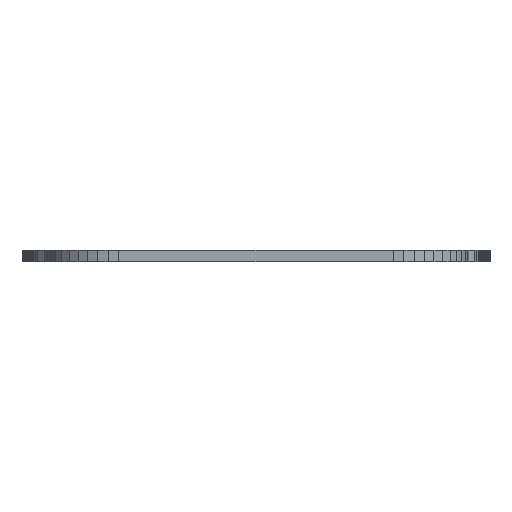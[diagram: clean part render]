
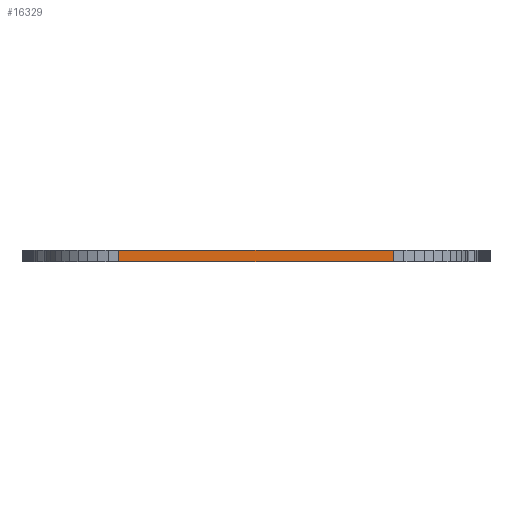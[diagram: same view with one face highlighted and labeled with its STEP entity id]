
A CAD part, left-side view. The second image highlights one B-rep face of the part: STEP entity #16329.
In plain terms, the highlighted planar face has unit normal (-1, 0, 0).
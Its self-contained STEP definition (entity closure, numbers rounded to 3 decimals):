
#72 = PLANE('',#73);
#73 = AXIS2_PLACEMENT_3D('',#74,#75,#76);
#74 = CARTESIAN_POINT('',(0.,0.,2.5));
#75 = DIRECTION('',(0.,0.,1.));
#76 = DIRECTION('',(1.,0.,-0.));
#126 = PLANE('',#127);
#127 = AXIS2_PLACEMENT_3D('',#128,#129,#130);
#128 = CARTESIAN_POINT('',(0.,0.,0.));
#129 = DIRECTION('',(0.,0.,1.));
#130 = DIRECTION('',(1.,0.,-0.));
#2503 = VERTEX_POINT('',#2504);
#2504 = CARTESIAN_POINT('',(-66.,29.,0.));
#2518 = PLANE('',#2519);
#2519 = AXIS2_PLACEMENT_3D('',#2520,#2521,#2522);
#2520 = CARTESIAN_POINT('',(-65.837,31.277,0.));
#2521 = DIRECTION('',(0.997,-0.071,0.));
#2522 = DIRECTION('',(-0.071,-0.997,0.));
#2530 = EDGE_CURVE('',#2503,#2531,#2533,.T.);
#2531 = VERTEX_POINT('',#2532);
#2532 = CARTESIAN_POINT('',(-66.,-29.,0.));
#2533 = SURFACE_CURVE('',#2534,(#2538,#2545),.PCURVE_S1.);
#2534 = LINE('',#2535,#2536);
#2535 = CARTESIAN_POINT('',(-66.,29.,0.));
#2536 = VECTOR('',#2537,1.);
#2537 = DIRECTION('',(0.,-1.,0.));
#2538 = PCURVE('',#126,#2539);
#2539 = DEFINITIONAL_REPRESENTATION('',(#2540),#2544);
#2540 = LINE('',#2541,#2542);
#2541 = CARTESIAN_POINT('',(-66.,29.));
#2542 = VECTOR('',#2543,1.);
#2543 = DIRECTION('',(0.,-1.));
#2544 = ( GEOMETRIC_REPRESENTATION_CONTEXT(2) 
PARAMETRIC_REPRESENTATION_CONTEXT() REPRESENTATION_CONTEXT('2D SPACE',''
  ) );
#2545 = PCURVE('',#2546,#2551);
#2546 = PLANE('',#2547);
#2547 = AXIS2_PLACEMENT_3D('',#2548,#2549,#2550);
#2548 = CARTESIAN_POINT('',(-66.,29.,0.));
#2549 = DIRECTION('',(1.,0.,-0.));
#2550 = DIRECTION('',(0.,-1.,0.));
#2551 = DEFINITIONAL_REPRESENTATION('',(#2552),#2556);
#2552 = LINE('',#2553,#2554);
#2553 = CARTESIAN_POINT('',(0.,0.));
#2554 = VECTOR('',#2555,1.);
#2555 = DIRECTION('',(1.,0.));
#2556 = ( GEOMETRIC_REPRESENTATION_CONTEXT(2) 
PARAMETRIC_REPRESENTATION_CONTEXT() REPRESENTATION_CONTEXT('2D SPACE',''
  ) );
#2574 = PLANE('',#2575);
#2575 = AXIS2_PLACEMENT_3D('',#2576,#2577,#2578);
#2576 = CARTESIAN_POINT('',(-66.,-29.,0.));
#2577 = DIRECTION('',(0.997,0.071,-0.));
#2578 = DIRECTION('',(0.071,-0.997,0.));
#8537 = VERTEX_POINT('',#8538);
#8538 = CARTESIAN_POINT('',(-66.,29.,2.5));
#8559 = EDGE_CURVE('',#8560,#8537,#8562,.T.);
#8560 = VERTEX_POINT('',#8561);
#8561 = CARTESIAN_POINT('',(-66.,-29.,2.5));
#8562 = SURFACE_CURVE('',#8563,(#8567,#8574),.PCURVE_S1.);
#8563 = LINE('',#8564,#8565);
#8564 = CARTESIAN_POINT('',(-66.,-29.,2.5));
#8565 = VECTOR('',#8566,1.);
#8566 = DIRECTION('',(0.,1.,0.));
#8567 = PCURVE('',#72,#8568);
#8568 = DEFINITIONAL_REPRESENTATION('',(#8569),#8573);
#8569 = LINE('',#8570,#8571);
#8570 = CARTESIAN_POINT('',(-66.,-29.));
#8571 = VECTOR('',#8572,1.);
#8572 = DIRECTION('',(0.,1.));
#8573 = ( GEOMETRIC_REPRESENTATION_CONTEXT(2) 
PARAMETRIC_REPRESENTATION_CONTEXT() REPRESENTATION_CONTEXT('2D SPACE',''
  ) );
#8574 = PCURVE('',#2546,#8575);
#8575 = DEFINITIONAL_REPRESENTATION('',(#8576),#8580);
#8576 = LINE('',#8577,#8578);
#8577 = CARTESIAN_POINT('',(58.,-2.5));
#8578 = VECTOR('',#8579,1.);
#8579 = DIRECTION('',(-1.,0.));
#8580 = ( GEOMETRIC_REPRESENTATION_CONTEXT(2) 
PARAMETRIC_REPRESENTATION_CONTEXT() REPRESENTATION_CONTEXT('2D SPACE',''
  ) );
#16281 = EDGE_CURVE('',#2503,#8537,#16282,.T.);
#16282 = SURFACE_CURVE('',#16283,(#16287,#16294),.PCURVE_S1.);
#16283 = LINE('',#16284,#16285);
#16284 = CARTESIAN_POINT('',(-66.,29.,0.));
#16285 = VECTOR('',#16286,1.);
#16286 = DIRECTION('',(0.,0.,1.));
#16287 = PCURVE('',#2518,#16288);
#16288 = DEFINITIONAL_REPRESENTATION('',(#16289),#16293);
#16289 = LINE('',#16290,#16291);
#16290 = CARTESIAN_POINT('',(2.283,0.));
#16291 = VECTOR('',#16292,1.);
#16292 = DIRECTION('',(0.,-1.));
#16293 = ( GEOMETRIC_REPRESENTATION_CONTEXT(2) 
PARAMETRIC_REPRESENTATION_CONTEXT() REPRESENTATION_CONTEXT('2D SPACE',''
  ) );
#16294 = PCURVE('',#2546,#16295);
#16295 = DEFINITIONAL_REPRESENTATION('',(#16296),#16300);
#16296 = LINE('',#16297,#16298);
#16297 = CARTESIAN_POINT('',(0.,0.));
#16298 = VECTOR('',#16299,1.);
#16299 = DIRECTION('',(0.,-1.));
#16300 = ( GEOMETRIC_REPRESENTATION_CONTEXT(2) 
PARAMETRIC_REPRESENTATION_CONTEXT() REPRESENTATION_CONTEXT('2D SPACE',''
  ) );
#16329 = ADVANCED_FACE('',(#16330),#2546,.F.);
#16330 = FACE_BOUND('',#16331,.F.);
#16331 = EDGE_LOOP('',(#16332,#16333,#16334,#16355));
#16332 = ORIENTED_EDGE('',*,*,#16281,.T.);
#16333 = ORIENTED_EDGE('',*,*,#8559,.F.);
#16334 = ORIENTED_EDGE('',*,*,#16335,.F.);
#16335 = EDGE_CURVE('',#2531,#8560,#16336,.T.);
#16336 = SURFACE_CURVE('',#16337,(#16341,#16348),.PCURVE_S1.);
#16337 = LINE('',#16338,#16339);
#16338 = CARTESIAN_POINT('',(-66.,-29.,0.));
#16339 = VECTOR('',#16340,1.);
#16340 = DIRECTION('',(0.,0.,1.));
#16341 = PCURVE('',#2546,#16342);
#16342 = DEFINITIONAL_REPRESENTATION('',(#16343),#16347);
#16343 = LINE('',#16344,#16345);
#16344 = CARTESIAN_POINT('',(58.,0.));
#16345 = VECTOR('',#16346,1.);
#16346 = DIRECTION('',(0.,-1.));
#16347 = ( GEOMETRIC_REPRESENTATION_CONTEXT(2) 
PARAMETRIC_REPRESENTATION_CONTEXT() REPRESENTATION_CONTEXT('2D SPACE',''
  ) );
#16348 = PCURVE('',#2574,#16349);
#16349 = DEFINITIONAL_REPRESENTATION('',(#16350),#16354);
#16350 = LINE('',#16351,#16352);
#16351 = CARTESIAN_POINT('',(0.,0.));
#16352 = VECTOR('',#16353,1.);
#16353 = DIRECTION('',(0.,-1.));
#16354 = ( GEOMETRIC_REPRESENTATION_CONTEXT(2) 
PARAMETRIC_REPRESENTATION_CONTEXT() REPRESENTATION_CONTEXT('2D SPACE',''
  ) );
#16355 = ORIENTED_EDGE('',*,*,#2530,.F.);
